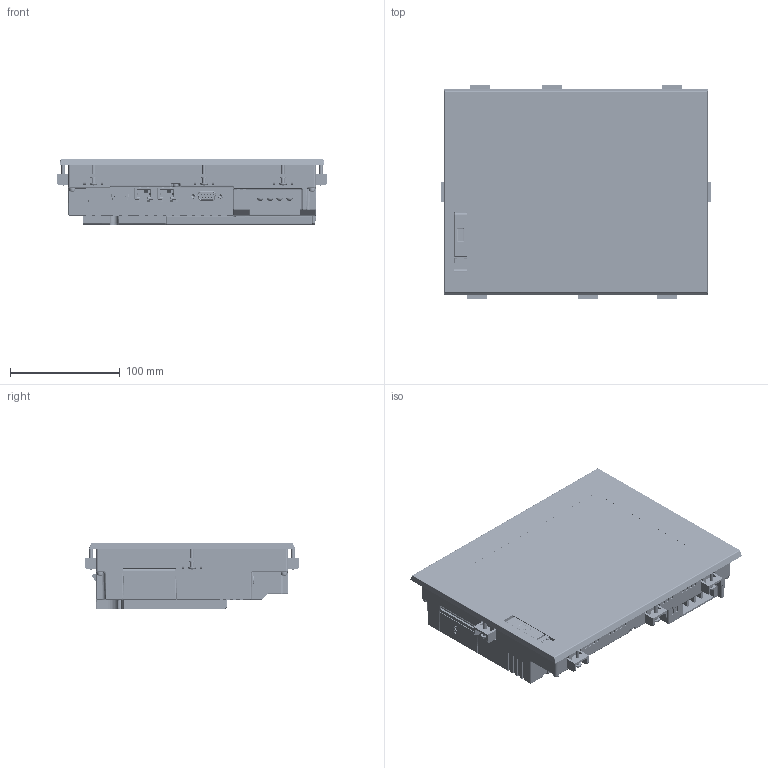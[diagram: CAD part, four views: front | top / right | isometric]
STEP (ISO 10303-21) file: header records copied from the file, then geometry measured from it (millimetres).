
FILE_DESCRIPTION((''),'2;1');
FILE_NAME('GT3708_ASM_15_ASM','2025-04-02T12:09:51',('TQ65592'),(''),'CREO PARAMETRIC BY PTC INC, 2022281','CREO PARAMETRIC BY PTC INC, 2022281','');
FILE_SCHEMA(('CONFIG_CONTROL_DESIGN'));
Products named in the file (30): GT3708_1_1; COVER_1_1; COVER_2_1; COVER_3_2; COVER_4_1; TORITUKE_1-1_1_1; TORITUKE_1-1_1_2; TORITUKE_1-1_1_ASM; TORITUKE_1-2_1_1; TORITUKE_1-2_1_2; TORITUKE_1-2_1_ASM; TORITUKE_1-3_1_1; TORITUKE_1-3_1_2; TORITUKE_1-3_1_ASM; TORITUKE_1-4_1_1; TORITUKE_1-4_1_2; TORITUKE_1-4_1_ASM; TORITUKE_1-5_1_1; TORITUKE_1-5_1_2; TORITUKE_1-5_1_ASM; TORITUKE_1-6_1_1; TORITUKE_1-6_1_2; TORITUKE_1-6_1_ASM; TORITUKE_1-7_1_1; TORITUKE_1-7_1_2; TORITUKE_1-7_1_ASM; TORITUKE_1-8_1_1; TORITUKE_1-8_1_2; TORITUKE_1-8_1_ASM; GT3708_ASM_15_ASM
Assembly tree (29 placements, depth 3):
  GT3708_ASM_15_ASM
    GT3708_1_1
    COVER_1_1
    COVER_2_1
    COVER_3_2
    COVER_4_1
    TORITUKE_1-1_1_ASM
      TORITUKE_1-1_1_1
      TORITUKE_1-1_1_2
    TORITUKE_1-2_1_ASM
      TORITUKE_1-2_1_1
      TORITUKE_1-2_1_2
    TORITUKE_1-3_1_ASM
      TORITUKE_1-3_1_1
      TORITUKE_1-3_1_2
    TORITUKE_1-4_1_ASM
      TORITUKE_1-4_1_1
      TORITUKE_1-4_1_2
    TORITUKE_1-5_1_ASM
      TORITUKE_1-5_1_1
      TORITUKE_1-5_1_2
    TORITUKE_1-6_1_ASM
      TORITUKE_1-6_1_1
      TORITUKE_1-6_1_2
    TORITUKE_1-7_1_ASM
      TORITUKE_1-7_1_1
      TORITUKE_1-7_1_2
    TORITUKE_1-8_1_ASM
      TORITUKE_1-8_1_1
      TORITUKE_1-8_1_2
Bounding box: 246.2 x 195.2 x 61 mm (x, y, z)
Volume: 2023045 mm3; surface area: 220923.9 mm2
Topology: 21 solids, 23 shells, 10241 faces, 28125 edges, 18249 vertices
Faces by surface type: plane 6214, cylinder 2903, extrusion 321, bspline 304, torus 233, cone 138, sphere 128
Entity records: 348602 total; most frequent: CARTESIAN_POINT 85729, ORIENTED_EDGE 55944, DIRECTION 52887, EDGE_CURVE 27972, VECTOR 20125, LINE 19804, VERTEX_POINT 18245, AXIS2_PLACEMENT_3D 16381
